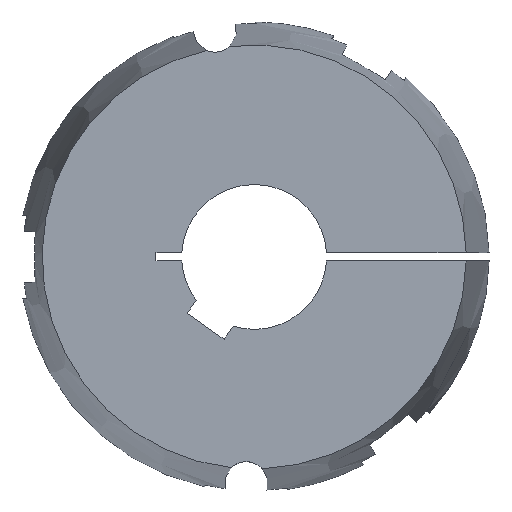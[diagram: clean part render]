
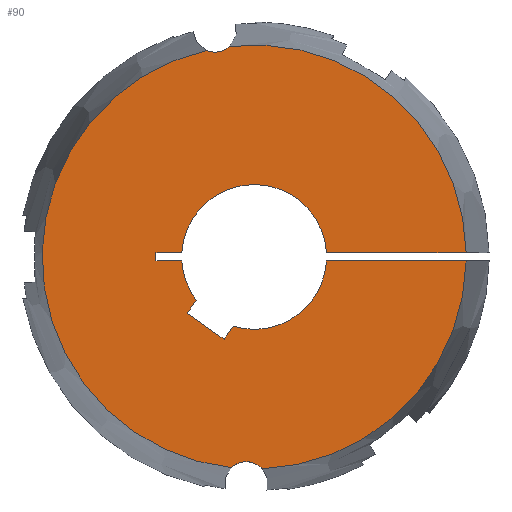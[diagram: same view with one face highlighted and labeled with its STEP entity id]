
A CAD part, left-side view. The second image highlights one B-rep face of the part: STEP entity #90.
In plain terms, the highlighted planar face has unit normal (-1, 0, 0).
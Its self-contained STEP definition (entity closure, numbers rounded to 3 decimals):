
#90 = ADVANCED_FACE( '', ( #140 ), #141, .F. );
#140 = FACE_OUTER_BOUND( '', #208, .T. );
#141 = PLANE( '', #209 );
#208 = EDGE_LOOP( '', ( #369, #370, #371, #372, #373, #374, #375, #376, #377, #378, #379, #380, #381, #382, #383, #384 ) );
#209 = AXIS2_PLACEMENT_3D( '', #385, #386, #387 );
#369 = ORIENTED_EDGE( '', *, *, #548, .F. );
#370 = ORIENTED_EDGE( '', *, *, #601, .F. );
#371 = ORIENTED_EDGE( '', *, *, #570, .T. );
#372 = ORIENTED_EDGE( '', *, *, #583, .T. );
#373 = ORIENTED_EDGE( '', *, *, #581, .T. );
#374 = ORIENTED_EDGE( '', *, *, #578, .T. );
#375 = ORIENTED_EDGE( '', *, *, #587, .T. );
#376 = ORIENTED_EDGE( '', *, *, #602, .T. );
#377 = ORIENTED_EDGE( '', *, *, #603, .T. );
#378 = ORIENTED_EDGE( '', *, *, #604, .T. );
#379 = ORIENTED_EDGE( '', *, *, #605, .T. );
#380 = ORIENTED_EDGE( '', *, *, #606, .T. );
#381 = ORIENTED_EDGE( '', *, *, #572, .T. );
#382 = ORIENTED_EDGE( '', *, *, #607, .F. );
#383 = ORIENTED_EDGE( '', *, *, #551, .F. );
#384 = ORIENTED_EDGE( '', *, *, #608, .F. );
#385 = CARTESIAN_POINT( '', ( -102., 0., 0. ) );
#386 = DIRECTION( '', ( 1., 0., 0. ) );
#387 = DIRECTION( '', ( 0., 1., 0. ) );
#548 = EDGE_CURVE( '', #649, #651, #652, .F. );
#551 = EDGE_CURVE( '', #655, #657, #658, .F. );
#570 = EDGE_CURVE( '', #693, #691, #694, .T. );
#572 = EDGE_CURVE( '', #696, #697, #698, .T. );
#578 = EDGE_CURVE( '', #709, #707, #710, .T. );
#581 = EDGE_CURVE( '', #714, #709, #715, .T. );
#583 = EDGE_CURVE( '', #691, #714, #717, .T. );
#587 = EDGE_CURVE( '', #707, #721, #723, .T. );
#601 = EDGE_CURVE( '', #693, #649, #745, .T. );
#602 = EDGE_CURVE( '', #721, #746, #747, .T. );
#603 = EDGE_CURVE( '', #746, #748, #749, .T. );
#604 = EDGE_CURVE( '', #748, #750, #751, .T. );
#605 = EDGE_CURVE( '', #750, #752, #753, .T. );
#606 = EDGE_CURVE( '', #752, #696, #754, .T. );
#607 = EDGE_CURVE( '', #657, #697, #755, .T. );
#608 = EDGE_CURVE( '', #651, #655, #756, .T. );
#649 = VERTEX_POINT( '', #815 );
#651 = VERTEX_POINT( '', #828 );
#652 = CIRCLE( '', #829, 6.75 );
#655 = VERTEX_POINT( '', #843 );
#657 = VERTEX_POINT( '', #856 );
#658 = CIRCLE( '', #857, 6.75 );
#691 = VERTEX_POINT( '', #924 );
#693 = VERTEX_POINT( '', #927 );
#694 = LINE( '', #928, #929 );
#696 = VERTEX_POINT( '', #937 );
#697 = VERTEX_POINT( '', #938 );
#698 = LINE( '', #939, #940 );
#707 = VERTEX_POINT( '', #958 );
#709 = VERTEX_POINT( '', #961 );
#710 = LINE( '', #962, #963 );
#714 = VERTEX_POINT( '', #969 );
#715 = LINE( '', #970, #971 );
#717 = CIRCLE( '', #974, 22.5 );
#721 = VERTEX_POINT( '', #979 );
#723 = LINE( '', #982, #983 );
#745 = CIRCLE( '', #1008, 65.867 );
#746 = VERTEX_POINT( '', #1009 );
#747 = CIRCLE( '', #1010, 22.5 );
#748 = VERTEX_POINT( '', #1011 );
#749 = LINE( '', #1012, #1013 );
#750 = VERTEX_POINT( '', #1014 );
#751 = LINE( '', #1015, #1016 );
#752 = VERTEX_POINT( '', #1017 );
#753 = LINE( '', #1018, #1019 );
#754 = CIRCLE( '', #1020, 22.5 );
#755 = CIRCLE( '', #1021, 65.867 );
#756 = CIRCLE( '', #1022, 65.867 );
#815 = CARTESIAN_POINT( '', ( -102., -2.538, -65.819 ) );
#828 = CARTESIAN_POINT( '', ( -102., 7.121, -65.481 ) );
#829 = AXIS2_PLACEMENT_3D( '', #1188, #1189, #1190 );
#843 = CARTESIAN_POINT( '', ( -102., 14.891, 64.162 ) );
#856 = CARTESIAN_POINT( '', ( -102., 7.611, 65.426 ) );
#857 = AXIS2_PLACEMENT_3D( '', #1191, #1192, #1193 );
#924 = CARTESIAN_POINT( '', ( -102., -22.465, -1.25 ) );
#927 = CARTESIAN_POINT( '', ( -102., -65.856, -1.25 ) );
#928 = CARTESIAN_POINT( '', ( -102., -73., -1.25 ) );
#929 = VECTOR( '', #1223, 1000. );
#937 = CARTESIAN_POINT( '', ( -102., -22.465, 1.25 ) );
#938 = CARTESIAN_POINT( '', ( -102., -65.856, 1.25 ) );
#939 = CARTESIAN_POINT( '', ( -102., 0., 1.25 ) );
#940 = VECTOR( '', #1224, 1000. );
#958 = CARTESIAN_POINT( '', ( -102., 20.819, -17.529 ) );
#961 = CARTESIAN_POINT( '', ( -102., 9.351, -25.559 ) );
#962 = CARTESIAN_POINT( '', ( -102., 9.351, -25.559 ) );
#963 = VECTOR( '', #1229, 1000. );
#969 = CARTESIAN_POINT( '', ( -102., 6.531, -21.531 ) );
#970 = CARTESIAN_POINT( '', ( -102., 6.531, -21.531 ) );
#971 = VECTOR( '', #1232, 1000. );
#974 = AXIS2_PLACEMENT_3D( '', #1234, #1235, #1236 );
#979 = CARTESIAN_POINT( '', ( -102., 17.999, -13.501 ) );
#982 = CARTESIAN_POINT( '', ( -102., 20.819, -17.529 ) );
#983 = VECTOR( '', #1242, 1000. );
#1008 = AXIS2_PLACEMENT_3D( '', #1276, #1277, #1278 );
#1009 = CARTESIAN_POINT( '', ( -102., 22.465, -1.25 ) );
#1010 = AXIS2_PLACEMENT_3D( '', #1279, #1280, #1281 );
#1011 = CARTESIAN_POINT( '', ( -102., 30.5, -1.25 ) );
#1012 = CARTESIAN_POINT( '', ( -102., 0., -1.25 ) );
#1013 = VECTOR( '', #1282, 1000. );
#1014 = CARTESIAN_POINT( '', ( -102., 30.5, 1.25 ) );
#1015 = CARTESIAN_POINT( '', ( -102., 30.5, -1.25 ) );
#1016 = VECTOR( '', #1283, 1000. );
#1017 = CARTESIAN_POINT( '', ( -102., 22.465, 1.25 ) );
#1018 = CARTESIAN_POINT( '', ( -102., 30.5, 1.25 ) );
#1019 = VECTOR( '', #1284, 1000. );
#1020 = AXIS2_PLACEMENT_3D( '', #1285, #1286, #1287 );
#1021 = AXIS2_PLACEMENT_3D( '', #1288, #1289, #1290 );
#1022 = AXIS2_PLACEMENT_3D( '', #1291, #1292, #1293 );
#1188 = CARTESIAN_POINT( '', ( -102., 2.456, -70.36 ) );
#1189 = DIRECTION( '', ( 1., 0., 0. ) );
#1190 = DIRECTION( '', ( 0., 1., 0. ) );
#1191 = CARTESIAN_POINT( '', ( -102., 12.218, 70.36 ) );
#1192 = DIRECTION( '', ( 1., 0., 0. ) );
#1193 = DIRECTION( '', ( 0., 1., 0. ) );
#1223 = DIRECTION( '', ( 0., 1., 0. ) );
#1224 = DIRECTION( '', ( 0., -1., 0. ) );
#1229 = DIRECTION( '', ( 0., 0.819, 0.574 ) );
#1232 = DIRECTION( '', ( 0., 0.574, -0.819 ) );
#1234 = CARTESIAN_POINT( '', ( -102., 0., 0. ) );
#1235 = DIRECTION( '', ( 1., 0., 0. ) );
#1236 = DIRECTION( '', ( 0., 0., -1. ) );
#1242 = DIRECTION( '', ( 0., -0.574, 0.819 ) );
#1276 = CARTESIAN_POINT( '', ( -102., 0., 0. ) );
#1277 = DIRECTION( '', ( 1., 0., 0. ) );
#1278 = DIRECTION( '', ( 0., 1., 0. ) );
#1279 = CARTESIAN_POINT( '', ( -102., 0., 0. ) );
#1280 = DIRECTION( '', ( 1., 0., 0. ) );
#1281 = DIRECTION( '', ( 0., 0., -1. ) );
#1282 = DIRECTION( '', ( 0., 1., 0. ) );
#1283 = DIRECTION( '', ( 0., 0., 1. ) );
#1284 = DIRECTION( '', ( 0., -1., 0. ) );
#1285 = CARTESIAN_POINT( '', ( -102., 0., 0. ) );
#1286 = DIRECTION( '', ( 1., 0., 0. ) );
#1287 = DIRECTION( '', ( 0., 0., -1. ) );
#1288 = CARTESIAN_POINT( '', ( -102., 0., 0. ) );
#1289 = DIRECTION( '', ( 1., 0., 0. ) );
#1290 = DIRECTION( '', ( 0., 1., 0. ) );
#1291 = CARTESIAN_POINT( '', ( -102., 0., 0. ) );
#1292 = DIRECTION( '', ( 1., 0., 0. ) );
#1293 = DIRECTION( '', ( 0., 1., 0. ) );
